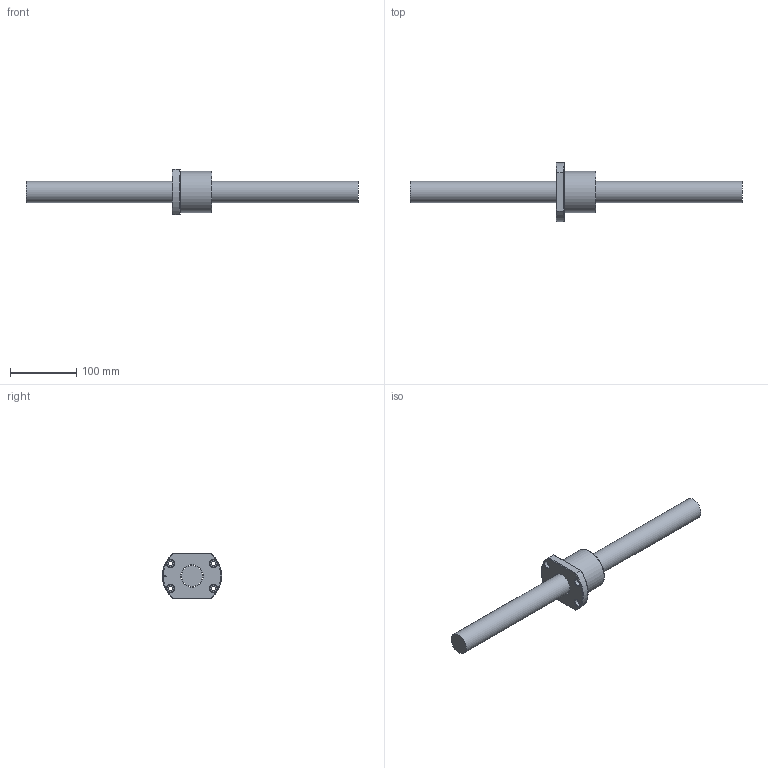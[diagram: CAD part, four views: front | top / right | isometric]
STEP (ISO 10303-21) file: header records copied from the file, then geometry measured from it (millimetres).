
FILE_DESCRIPTION (( 'STEP AP203' ), '1' );
FILE_NAME ('SFV03206D-4.8.step', '2024-05-20T03:38:59', ( '' ), ( '' ), 'SwSTEP 2.0', 'SolidWorks 2022', '' );
FILE_SCHEMA (( 'CONFIG_CONTROL_DESIGN' ));
Length unit declared in the file: millimetre
Products named in the file (1): SFV03206D-4.8
Bounding box: 500 x 89 x 68 mm (x, y, z)
Volume: 551976.5 mm3; surface area: 80970.7 mm2
Topology: 2 solids, 2 shells, 54 faces, 140 edges, 91 vertices
Faces by surface type: cylinder 20, plane 16, cone 9, torus 5, bspline 4
Full cylindrical faces by diameter (mm): 4 x1, 6.6 x4, 7 x5, 11 x4, 32 x1, 34.3 x1, 62 x1
Entity records: 3210 total; most frequent: CARTESIAN_POINT 2124, DIRECTION 198, ORIENTED_EDGE 182, AXIS2_PLACEMENT_3D 91, EDGE_CURVE 91, EDGE_LOOP 86, VERTEX_POINT 71, FACE_OUTER_BOUND 64
